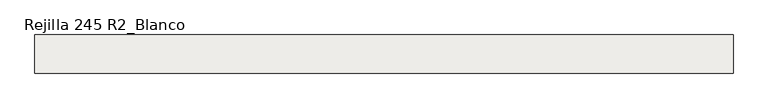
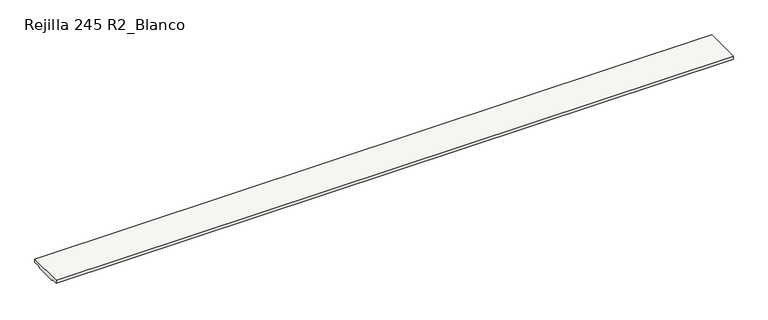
"""IFC4 building model written with IfcOpenShell, lengths in millimetres: slab geometry, ROSA GRES_245 R2 : Rejilla 245 R2_Blanco."""

import ifcopenshell
import ifcopenshell.guid

model = None  # the IFC model being written
_history = None  # IfcOwnerHistory: only IFC2X3 demands one
_inside = {}  # id of a spatial element -> (the spatial element, [elements in it])
_under = {}  # id of a project, library or spatial element -> (it, [spatial elements below it])
_declared = {}  # id of a project -> (the project, [libraries it declares])
_typed = {}  # id of a type object -> (the type object, [elements of that type])
_made_of = {}  # id of a material, layer set ... -> (it, [elements and type objects made of it])


def new_model(schema):
    """Start an empty IFC model of exactly this schema.

    Asked for "IFC4X3", IfcOpenShell would pick the latest addendum, in which some entities
    have other attributes; the version numbers below select the first issue.
    IFC2X3 requires an IfcOwnerHistory on every rooted entity: one is made here for all.
    """
    global model, _history
    if schema == "IFC4X3":
        model = ifcopenshell.file(schema_version=(4, 3, 0, 0))
    else:
        model = ifcopenshell.file(schema=schema)
    _inside.clear()
    _under.clear()
    _declared.clear()
    _typed.clear()
    _made_of.clear()
    _history = None
    if model.schema == "IFC2X3":
        org = make("IfcOrganization", Name="unknown")
        user = make(
            "IfcPersonAndOrganization",
            ThePerson=make("IfcPerson", FamilyName="unknown"),
            TheOrganization=org,
        )
        app = make(
            "IfcApplication",
            ApplicationDeveloper=org,
            Version="unknown",
            ApplicationFullName="unknown",
            ApplicationIdentifier="unknown",
        )
        _history = make(
            "IfcOwnerHistory",
            OwningUser=user,
            OwningApplication=app,
            ChangeAction="ADDED",
            CreationDate=0,
        )
    return model


def make(cls, **values):
    """One entity of the class cls with the attributes given. An attribute that is None is left unset."""
    return model.create_entity(
        cls, **{name: value for name, value in values.items() if value is not None}
    )


def rooted(cls, **values):
    """An entity with a GlobalId (a new one), such as an element, a storey or a relation."""
    return make(cls, GlobalId=ifcopenshell.guid.new(), OwnerHistory=_history, **values)


def si_unit(unit_type, name, prefix=None):
    """IfcSIUnit, for example si_unit("LENGTHUNIT", "METRE", prefix="MILLI")."""
    return make("IfcSIUnit", UnitType=unit_type, Prefix=prefix, Name=name)


def assignment(units):
    """IfcUnitAssignment: the units of a project."""
    return None if units is None else make("IfcUnitAssignment", Units=units)


def point(xyz):
    """IfcCartesianPoint."""
    return None if xyz is None else make("IfcCartesianPoint", Coordinates=xyz)


def direction(xyz):
    """IfcDirection."""
    return None if xyz is None else make("IfcDirection", DirectionRatios=xyz)


def frame(location, z_axis=None, x_axis=None):
    """IfcAxis2Placement3D, a coordinate frame: its origin and axes. An axis left out is left unset."""
    return make(
        "IfcAxis2Placement3D",
        Location=point(location),
        Axis=direction(z_axis),
        RefDirection=direction(x_axis),
    )


def origin():
    """The frame at (0, 0, 0) with its axes left unset."""
    return frame((0.0, 0.0, 0.0))


def place(relative_to, where):
    """IfcLocalPlacement: puts the frame where relative to a parent placement (None: the world)."""
    return make(
        "IfcLocalPlacement", PlacementRelTo=relative_to, RelativePlacement=where
    )


def context(
    kind, dimensions, precision=None, world=None, true_north=None, identifier=None
):
    """IfcGeometricRepresentationContext, for example the 3D "Model" context."""
    return make(
        "IfcGeometricRepresentationContext",
        ContextIdentifier=identifier,
        ContextType=kind,
        CoordinateSpaceDimension=dimensions,
        Precision=precision,
        WorldCoordinateSystem=world,
        TrueNorth=true_north,
    )


def project(units=None, contexts=None):
    """IfcProject with its units and contexts."""
    return rooted(
        "IfcProject",
        Name="project",
        RepresentationContexts=contexts,
        UnitsInContext=assignment(units),
    )


def spatial(cls, under=None, at=None, **own):
    """A site, building, storey or space (cls), placed at a placement, below another one or the project."""
    s = rooted(cls, ObjectPlacement=at, **own)
    if under is not None:
        _under.setdefault(under.id(), (under, []))[1].append(s)
    return s


def polyline(points):
    """IfcPolyline through the points."""
    return make("IfcPolyline", Points=[point(p) for p in points])


def outline(outer, holes=None, kind="AREA"):
    """IfcArbitraryClosedProfileDef: a profile drawn as a closed curve; with holes, ...WithVoids."""
    if holes is None:
        return make("IfcArbitraryClosedProfileDef", ProfileType=kind, OuterCurve=outer)
    return make(
        "IfcArbitraryProfileDefWithVoids",
        ProfileType=kind,
        OuterCurve=outer,
        InnerCurves=holes,
    )


def extrude(swept, where, along, depth):
    """IfcExtrudedAreaSolid: the profile swept, set in the frame where, extruded along a direction by depth."""
    return make(
        "IfcExtrudedAreaSolid",
        SweptArea=swept,
        Position=where,
        ExtrudedDirection=direction(along),
        Depth=depth,
    )


def shape(context_of_items, identifier, shape_type, items):
    """IfcShapeRepresentation: the items that make up one representation, for example the "Body"."""
    return make(
        "IfcShapeRepresentation",
        ContextOfItems=context_of_items,
        RepresentationIdentifier=identifier,
        RepresentationType=shape_type,
        Items=items,
    )


def source(mapping_origin, context_of_items, identifier, shape_type, items):
    """IfcRepresentationMap: a shape defined once, which mapped items show again and again."""
    return make(
        "IfcRepresentationMap",
        MappingOrigin=mapping_origin,
        MappedRepresentation=shape(context_of_items, identifier, shape_type, items),
    )


def transform(
    local_origin,
    x_axis=None,
    y_axis=None,
    z_axis=None,
    scale=None,
    scale2=None,
    scale3=None,
    uniform=True,
):
    """IfcCartesianTransformationOperator3D, or its non-uniform kind. x_axis, y_axis, z_axis: its Axis1, 2, 3."""
    if uniform:
        return make(
            "IfcCartesianTransformationOperator3D",
            Axis1=direction(x_axis),
            Axis2=direction(y_axis),
            LocalOrigin=point(local_origin),
            Scale=scale,
            Axis3=direction(z_axis),
        )
    return make(
        "IfcCartesianTransformationOperator3DnonUniform",
        Axis1=direction(x_axis),
        Axis2=direction(y_axis),
        LocalOrigin=point(local_origin),
        Scale=scale,
        Axis3=direction(z_axis),
        Scale2=scale2,
        Scale3=scale3,
    )


def mapped(mapping_source, mapping_target):
    """IfcMappedItem: shows the shape of a source again, moved by a transform."""
    return make(
        "IfcMappedItem", MappingSource=mapping_source, MappingTarget=mapping_target
    )


def made_of(thing, what):
    """Note that an element or type object is made of a material, layer set ...; save() writes the relation."""
    if what is not None:
        _made_of.setdefault(what.id(), (what, []))[1].append(thing)
    return thing


def element(
    cls,
    number,
    at=None,
    inside=None,
    cuts=None,
    type_object=None,
    material=None,
    context=None,
    identifier="Body",
    shape_type=None,
    held_by="IfcProductDefinitionShape",
    body=None,
    shapes=None,
    **own,
):
    """One element of the class cls, such as IfcWall. Its Tag is "e" and its number.

    at: its placement. inside: the storey or other place that contains it. cuts: it is an
    opening in that element (IfcRelVoidsElement). A single representation is given by context,
    identifier, shape_type and body (its items); several are given by shapes. held_by: the class
    of the entity that holds the representations. save() writes the other relations.
    """
    e = rooted(cls, Tag="e%d" % number, ObjectPlacement=at, **own)
    if body is not None:
        shapes = [shape(context, identifier, shape_type, body)]
    if shapes is not None:
        e.Representation = make(held_by, Representations=shapes)
    if inside is not None:
        _inside.setdefault(inside.id(), (inside, []))[1].append(e)
    if cuts is not None:
        rooted(
            "IfcRelVoidsElement", RelatingBuildingElement=cuts, RelatedOpeningElement=e
        )
    if type_object is not None:
        _typed.setdefault(type_object.id(), (type_object, []))[1].append(e)
    return made_of(e, material)


def aggregate(whole, parts):
    """IfcRelAggregates: a whole, such as a stair, and the parts it consists of."""
    return rooted("IfcRelAggregates", RelatingObject=whole, RelatedObjects=parts)


def save(model, path):
    """Write the relations noted so far, then the file.

    IfcRelAggregates (storeys below a building ...), IfcRelContainedInSpatialStructure (elements
    in a storey), IfcRelDefinesByType, IfcRelAssociatesMaterial and IfcRelDeclares: one each for
    every whole, place, type object, material and project.
    """
    for whole, parts in _under.values():
        aggregate(whole, parts)
    for where, things in _inside.values():
        rooted(
            "IfcRelContainedInSpatialStructure",
            RelatedElements=things,
            RelatingStructure=where,
        )
    for kind, things in _typed.values():
        rooted("IfcRelDefinesByType", RelatedObjects=things, RelatingType=kind)
    for what, things in _made_of.values():
        rooted("IfcRelAssociatesMaterial", RelatedObjects=things, RelatingMaterial=what)
    for by, libraries in _declared.values():
        rooted("IfcRelDeclares", RelatingContext=by, RelatedDefinitions=libraries)
    model.write(path)


def rejilla_245_r2_blanco_db46887a(model_context):
    return source(origin(), model_context, "Body", "SweptSolid", [
        extrude(outline(polyline([(369.5908797, 206.3460936), (369.5908797, 228.3460936), (614.5908797, 228.3460936), (614.5908797, 206.3460936), (572.3142119, 206.3460936), (561.3142119, 195.3460936), (422.8675475, 195.3460936), (411.8675475, 206.3460936), (369.5908797, 206.3460936)])), frame((0.0, 0.0, 0.0), z_axis=(1.0, 0.0, 0.0), x_axis=(0.0, 1.0, 0.0)), (0.0, 0.0, 1.0), 4490.0),
    ])


if __name__ == "__main__":
    model = new_model("IFC4")
    model_context = context("Model", 3, world=origin())
    ifc_project = project(units=[si_unit("LENGTHUNIT", "METRE", prefix="MILLI")], contexts=[model_context])
    site = spatial("IfcSite", under=ifc_project)
    building = spatial("IfcBuilding", under=site)
    placement = place(None, origin())
    rejilla_245_r2_blanco_shape = rejilla_245_r2_blanco_db46887a(model_context)
    element("IfcSlab", 1, ObjectType="ROSA GRES_245 R2 : Rejilla 245 R2_Blanco", at=placement, inside=building, context=model_context, shape_type="MappedRepresentation", body=[
        mapped(rejilla_245_r2_blanco_shape, transform((0.0, 0.0, 0.0), x_axis=(1.0, 0.0, 0.0), y_axis=(0.0, 1.0, 0.0), z_axis=(0.0, 0.0, 1.0))),
    ])
    save(model, "model.ifc")
